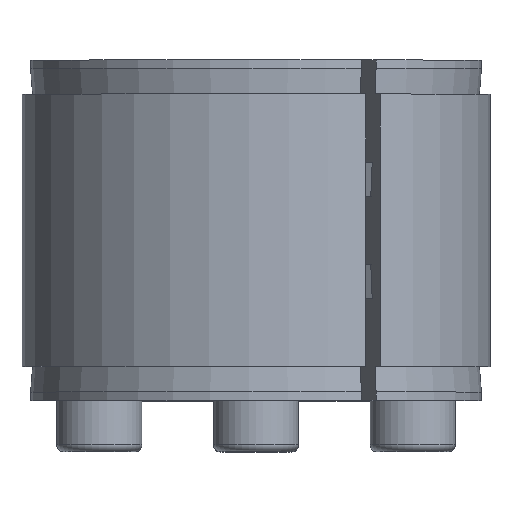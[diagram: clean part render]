
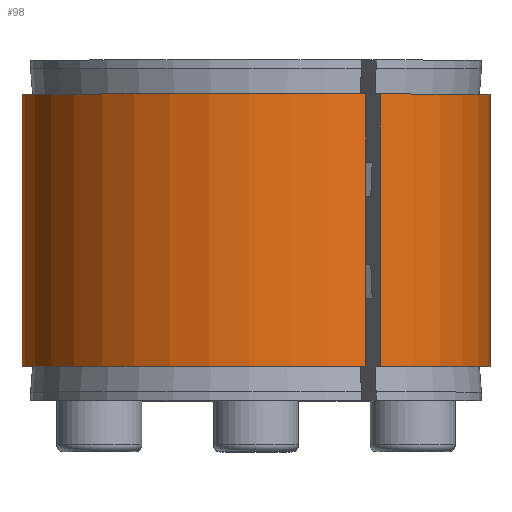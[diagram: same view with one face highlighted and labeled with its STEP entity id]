
A CAD part, top view. The second image highlights one B-rep face of the part: STEP entity #98.
In plain terms, the highlighted cylindrical face has radius 27.5 mm (diameter 55 mm), a partial arc.
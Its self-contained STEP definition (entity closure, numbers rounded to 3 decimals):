
#98 = ADVANCED_FACE( '', ( #221 ), #222, .T. );
#221 = FACE_OUTER_BOUND( '', #415, .T. );
#222 = CYLINDRICAL_SURFACE( '', #416, 27.5 );
#415 = EDGE_LOOP( '', ( #666, #667, #668, #669 ) );
#416 = AXIS2_PLACEMENT_3D( '', #670, #671, #672 );
#666 = ORIENTED_EDGE( '', *, *, #1030, .F. );
#667 = ORIENTED_EDGE( '', *, *, #990, .T. );
#668 = ORIENTED_EDGE( '', *, *, #1031, .F. );
#669 = ORIENTED_EDGE( '', *, *, #1032, .F. );
#670 = CARTESIAN_POINT( '', ( 0., -60., 0. ) );
#671 = DIRECTION( '', ( 0., 1., 0. ) );
#672 = DIRECTION( '', ( 0., 0., -1. ) );
#990 = EDGE_CURVE( '', #1177, #1181, #1183, .T. );
#1030 = EDGE_CURVE( '', #1177, #1251, #1252, .T. );
#1031 = EDGE_CURVE( '', #1253, #1181, #1254, .F. );
#1032 = EDGE_CURVE( '', #1251, #1253, #1255, .T. );
#1177 = VERTEX_POINT( '', #1522 );
#1181 = VERTEX_POINT( '', #1527 );
#1183 = CIRCLE( '', #1530, 27.5 );
#1251 = VERTEX_POINT( '', #1620 );
#1252 = LINE( '', #1621, #1622 );
#1253 = VERTEX_POINT( '', #1623 );
#1254 = LINE( '', #1624, #1625 );
#1255 = CIRCLE( '', #1626, 27.5 );
#1522 = CARTESIAN_POINT( '', ( 12.875, 36., 24.3 ) );
#1527 = CARTESIAN_POINT( '', ( 14.607, 36., 23.3 ) );
#1530 = AXIS2_PLACEMENT_3D( '', #1812, #1813, #1814 );
#1620 = CARTESIAN_POINT( '', ( 12.875, 4., 24.3 ) );
#1621 = CARTESIAN_POINT( '', ( 12.875, -60., 24.3 ) );
#1622 = VECTOR( '', #1879, 1000. );
#1623 = CARTESIAN_POINT( '', ( 14.607, 4., 23.3 ) );
#1624 = CARTESIAN_POINT( '', ( 14.607, -60., 23.3 ) );
#1625 = VECTOR( '', #1880, 1000. );
#1626 = AXIS2_PLACEMENT_3D( '', #1881, #1882, #1883 );
#1812 = CARTESIAN_POINT( '', ( 0., 36., 0. ) );
#1813 = DIRECTION( '', ( 0., -1., 0. ) );
#1814 = DIRECTION( '', ( 0., 0., -1. ) );
#1879 = DIRECTION( '', ( 0., -1., 0. ) );
#1880 = DIRECTION( '', ( 0., -1., 0. ) );
#1881 = CARTESIAN_POINT( '', ( 0., 4., 0. ) );
#1882 = DIRECTION( '', ( 0., -1., 0. ) );
#1883 = DIRECTION( '', ( 0., 0., -1. ) );
